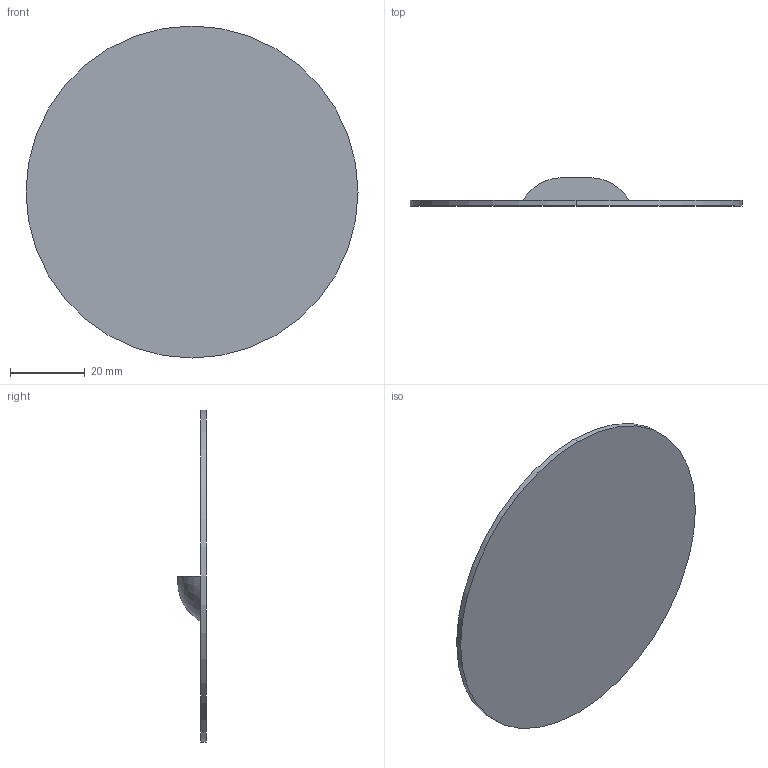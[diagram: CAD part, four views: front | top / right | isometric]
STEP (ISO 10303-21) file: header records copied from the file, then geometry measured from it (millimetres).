
FILE_DESCRIPTION (( 'STEP AP203' ), '1' );
FILE_NAME ('L31 703935-10 - LOUVER, SINGLE HIT 1.120 .06 ALUM.STEP', '2025-01-28T13:52:13', ( '' ), ( '' ), 'SwSTEP 2.0', 'SolidWorks 2024', '' );
FILE_SCHEMA (( 'CONFIG_CONTROL_DESIGN' ));
Length unit declared in the file: inch
Products named in the file (1): L31 703935-10 - LOUVER, SINGLE HIT 1.120 .06 ALUM
Bounding box: 88.9 x 7.62 x 88.9 mm (x, y, z)
Volume: 10537.6 mm3; surface area: 13054.6 mm2
Topology: 1 solids, 1 shells, 9 faces, 18 edges, 12 vertices
Faces by surface type: plane 4, cylinder 3, torus 2
Entity records: 323 total; most frequent: DIRECTION 50, CARTESIAN_POINT 40, ORIENTED_EDGE 36, AXIS2_PLACEMENT_3D 22, EDGE_CURVE 18, VERTEX_POINT 12, CIRCLE 12, EDGE_LOOP 10
